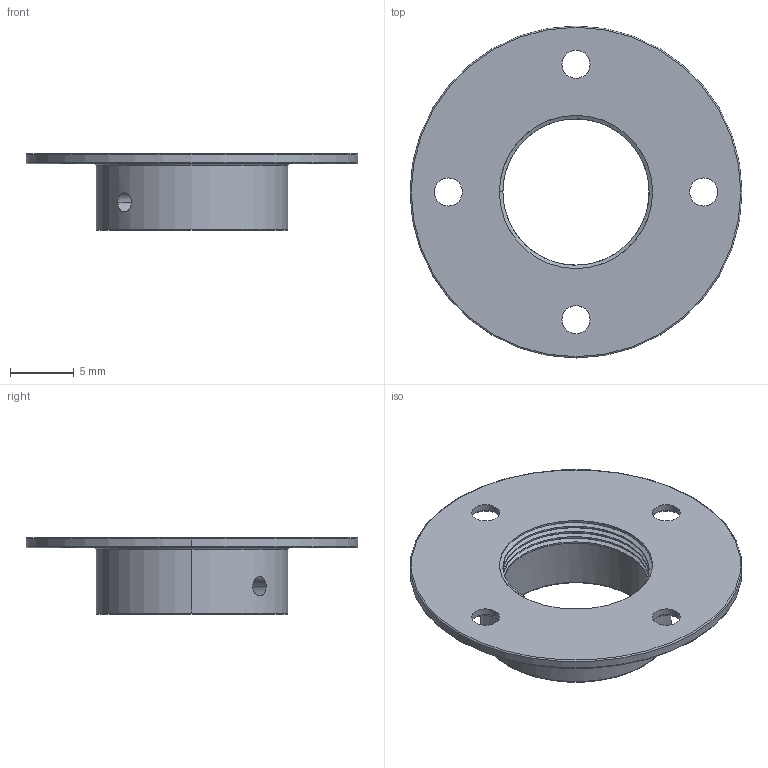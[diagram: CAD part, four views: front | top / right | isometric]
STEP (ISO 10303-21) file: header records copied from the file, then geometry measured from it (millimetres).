
FILE_DESCRIPTION (( 'STEP AP203' ), '1' );
FILE_NAME ('BK-MTC_Drawing_W0667A - A00100.STEP', '2023-12-04T01:33:48', ( '' ), ( '' ), 'SwSTEP 2.0', 'SolidWorks 2020', '' );
FILE_SCHEMA (( 'CONFIG_CONTROL_DESIGN' ));
Length unit declared in the file: millimetre
Products named in the file (1): BK-MTC_Drawing_W0667A - A00100
Bounding box: 26 x 26 x 6 mm (x, y, z)
Volume: 660.1 mm3; surface area: 1395.5 mm2
Topology: 1 solids, 1 shells, 50 faces, 118 edges, 71 vertices
Faces by surface type: cylinder 24, torus 10, cone 8, plane 5, bspline 3
Entity records: 2000 total; most frequent: CARTESIAN_POINT 779, DIRECTION 248, ORIENTED_EDGE 236, EDGE_CURVE 118, AXIS2_PLACEMENT_3D 104, VERTEX_POINT 71, EDGE_LOOP 63, CIRCLE 56
